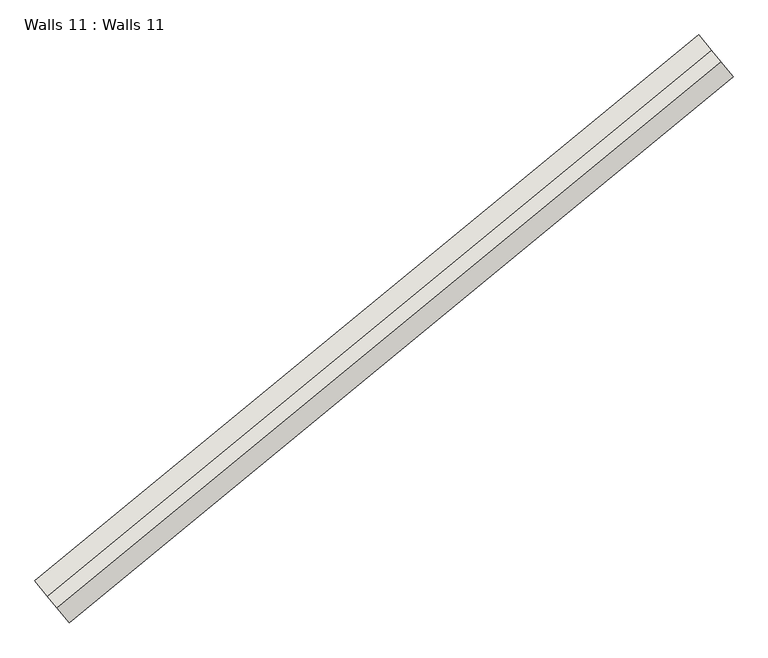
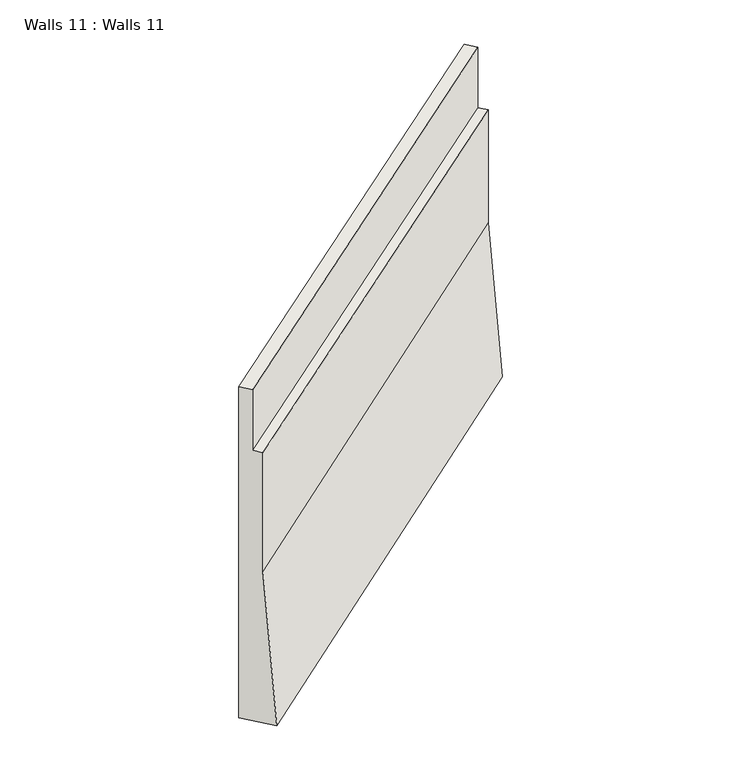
"""IFC4 building model written with IfcOpenShell, lengths in millimetres: wall geometry, Walls 11 : Walls 11."""

from ifc_helpers import new_model, si_unit, origin, place, context, project, spatial, faceted_brep, source, transform, mapped, element, save


def walls_11_walls_11_5c9fd6a9(model_context):
    return source(origin(), model_context, "Body", "Brep", [
        faceted_brep([(-279051.5861078, -433659.0893784, 640380.0), (-279051.5861078, -433659.0893784, 634910.0), (-278702.1512503, -434083.819034, 634910.0), (-278829.2184712, -433929.3718865, 637410.0), (-278829.2184712, -433929.3718865, 639380.0), (-278924.5188869, -433813.5365259, 639380.0), (-278924.5188869, -433813.5365259, 640380.0), (-272333.1351912, -428131.6652682, 640350.0), (-272206.0679703, -428286.1124157, 640350.0), (-272206.0679703, -428286.1124157, 639350.0), (-272110.7675546, -428401.9477763, 639350.0), (-272110.7675546, -428401.9477763, 637480.0), (-271983.7003337, -428556.3949238, 634980.0), (-272333.1351912, -428131.6652682, 634980.0)], [[[0, 1, 2, 3, 4, 5, 6]], [[7, 8, 9, 10, 11, 12, 13]], [[7, 13, 1, 0]], [[13, 12, 2, 1]], [[12, 11, 3, 2]], [[11, 10, 4, 3]], [[10, 9, 5, 4]], [[9, 8, 6, 5]], [[8, 7, 0, 6]]]),
    ])


if __name__ == "__main__":
    model = new_model("IFC4")
    model_context = context("Model", 3, world=origin())
    ifc_project = project(units=[si_unit("LENGTHUNIT", "METRE", prefix="MILLI")], contexts=[model_context])
    site = spatial("IfcSite", under=ifc_project)
    building = spatial("IfcBuilding", under=site)
    placement = place(None, origin())
    walls_11_walls_11_shape = walls_11_walls_11_5c9fd6a9(model_context)
    element("IfcWall", 1, ObjectType="Walls 11 : Walls 11", at=placement, inside=building, context=model_context, shape_type="MappedRepresentation", body=[
        mapped(walls_11_walls_11_shape, transform((0.0, 0.0, 0.0), x_axis=(1.0, 0.0, 0.0), y_axis=(0.0, 1.0, 0.0), z_axis=(0.0, 0.0, 1.0))),
    ])
    save(model, "model.ifc")
